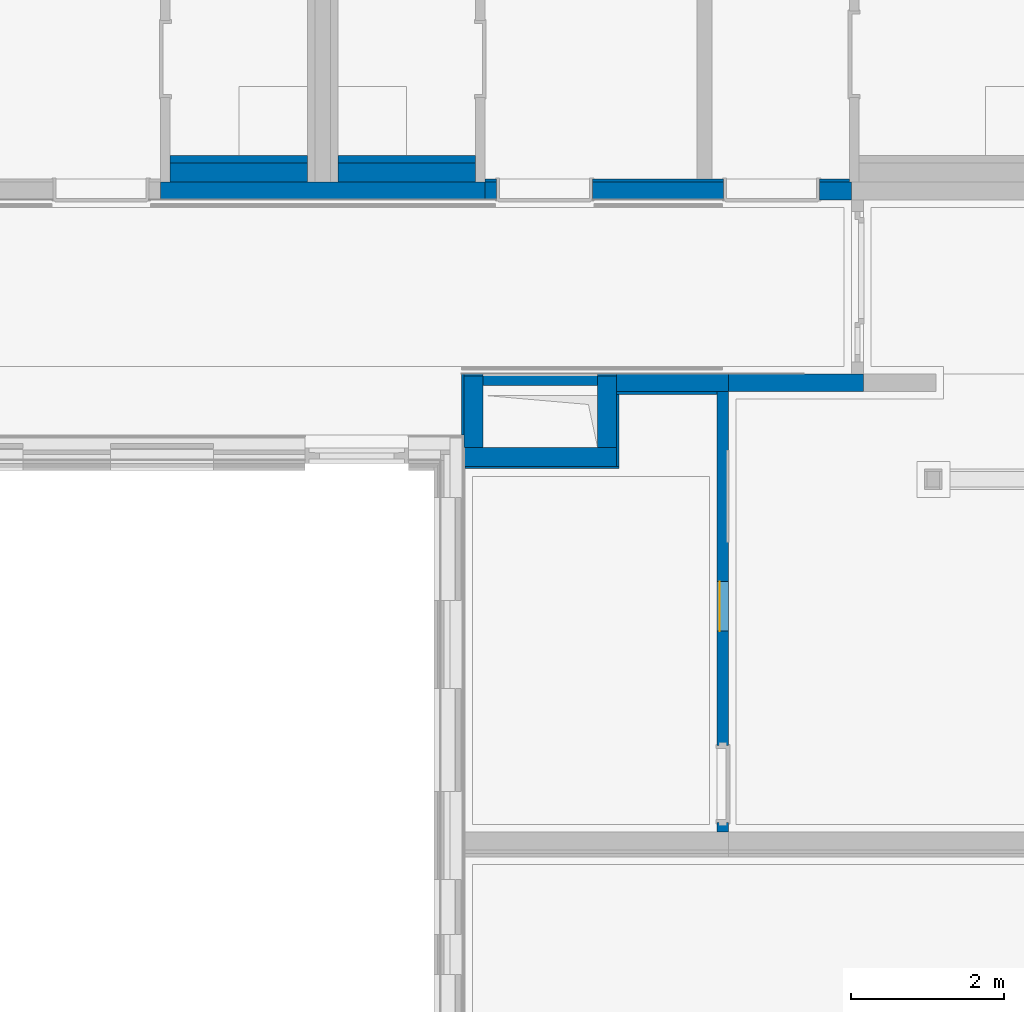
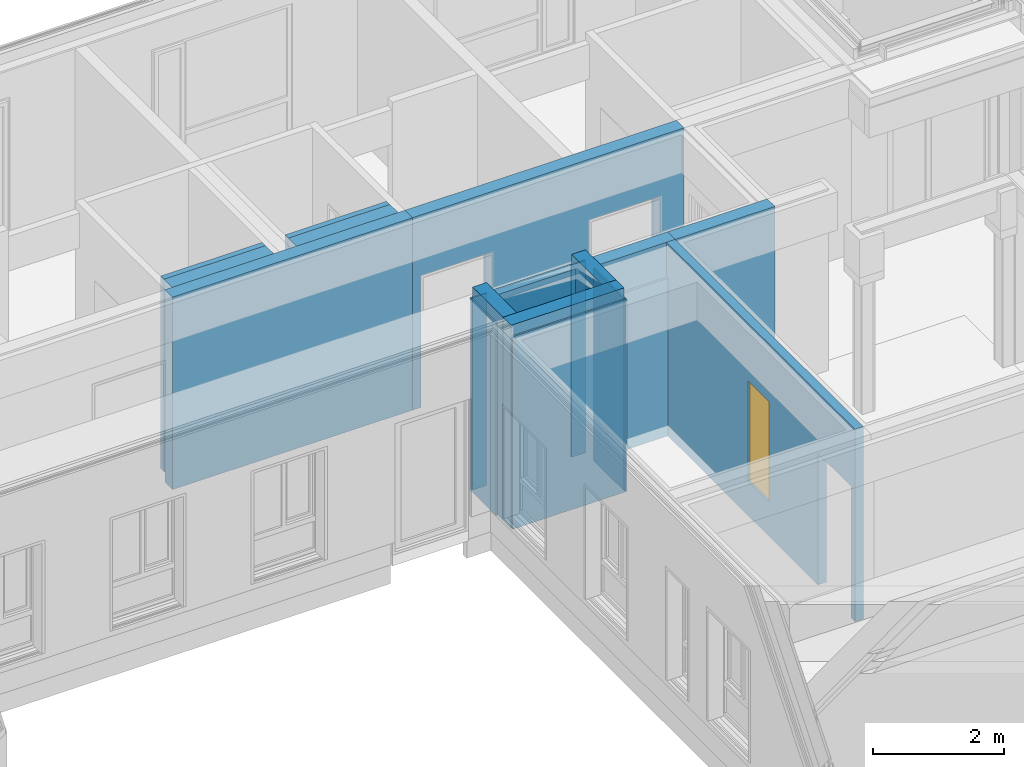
# One storey, part 20 of 207: 20 walls, 1 window, 6 openings.
"""IFC4 building model written with IfcOpenShell, lengths in metres."""

from ifc_helpers import new_model, entity, si_unit, converted_unit, derived_unit, frame, frame_2d, origin, origin_with_axes, place, context, subcontext, project, spatial, polyline, rectangle, outline, extrude, clip, bounded_halfspace, open_shell, surface_model, source, transform, mapped, material, element, fill, save


model = new_model("IFC4")

# Units and contexts
model_context = context("Model", 3, precision=1e-05, world=origin())
body_context = subcontext(model_context, "Body", "Model", "MODEL_VIEW")
ifc_project = project(units=[si_unit("LENGTHUNIT", "METRE"), si_unit("AREAUNIT", "SQUARE_METRE"), si_unit("VOLUMEUNIT", "CUBIC_METRE"), si_unit("MASSUNIT", "GRAM", prefix="KILO"), converted_unit("PLANEANGLEUNIT", "DEGREE", entity("IfcPlaneAngleMeasure", 0.0174532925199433), si_unit("PLANEANGLEUNIT", "RADIAN"), dimensions=[0, 0, 0, 0, 0, 0, 0]), derived_unit("THERMALTRANSMITTANCEUNIT", [(si_unit("POWERUNIT", "WATT"), 1), (si_unit("THERMODYNAMICTEMPERATUREUNIT", "KELVIN"), -1), (si_unit("LENGTHUNIT", "METRE"), -2)]), derived_unit("VOLUMETRICFLOWRATEUNIT", [(si_unit("LENGTHUNIT", "METRE"), 3), (converted_unit("TIMEUNIT", "hour", entity("IfcTimeMeasure", 3600.0), si_unit("TIMEUNIT", "SECOND"), dimensions=[0, 0, 1, 0, 0, 0, 0]), -1), (si_unit("LENGTHUNIT", "METRE"), -1)])], contexts=[model_context])

# Site, building, storey
site_placement = place(None, origin())
site = spatial("IfcSite", under=ifc_project, at=site_placement, Name="Psychiatrie Neubau Wunstorf", CompositionType="ELEMENT")
building_placement = place(site_placement, origin())
building = spatial("IfcBuilding", under=site, at=building_placement, Name="Neubau H2 Stationsgebäude", CompositionType="ELEMENT")
storey_placement = place(building_placement, frame((0.0, 0.0, -0.2)))
storey = spatial("IfcBuildingStorey", under=building, at=storey_placement, Name="H2 Ebene 0", CompositionType="ELEMENT", Elevation=-0.2)

# Wall
ifc_material_1 = material(Name="WI-STB")
wall_1_placement = place(storey_placement, frame((27.1, 20.875, 0.0), z_axis=(0.0, 0.0, 1.0), x_axis=(0.0, 1.0, 0.0)))
element("IfcWall", 1, at=wall_1_placement, inside=storey, material=ifc_material_1, context=body_context, shape_type="SweptSolid", body=[
    extrude(rectangle(XDim=0.931, YDim=0.25, at=frame_2d((0.4655, 0.125), x_axis=(1.0, 0.0))), origin_with_axes(), (0.0, 0.0, 1.0), 3.8),
])

# Wall, openings, window
ifc_material_2 = material(Name="WI-LB")
wall_2_placement = place(storey_placement, frame((30.3168490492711, 15.8324990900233, 0.0), z_axis=(0.0, 0.0, 1.0), x_axis=(0.0, 1.0, 0.0)))
wall_2 = element("IfcWall", 2, at=wall_2_placement, inside=storey, material=ifc_material_2, context=body_context, shape_type="SweptSolid", body=[
    extrude(rectangle(XDim=5.77150090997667, YDim=0.15, at=frame_2d((2.88575045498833, 0.075), x_axis=(1.0, 0.0))), origin_with_axes(), (0.0, 0.0, 1.0), 3.6),
])
opening_1_placement = place(wall_2_placement, frame((0.12500961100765, 0.0, 0.0), z_axis=(0.0, 1.0, 0.0), x_axis=(0.0, 0.0, 1.0)))
element("IfcOpeningElement", 3, at=opening_1_placement, cuts=wall_2, Name="Türöffnung", ObjectType="Opening", context=body_context, shape_type="SweptSolid", body=[
    extrude(outline(polyline([(2.46, 1.01), (2.46, 0.0), (0.0, 0.0), (0.0, 1.01), (2.46, 1.01)])), origin_with_axes(), (0.0, 0.0, 1.0), 0.15),
])
opening_2_placement = place(wall_2_placement, frame((2.63254047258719, 0.0, 0.64), z_axis=(0.0, 1.0, 0.0), x_axis=(0.0, 0.0, 1.0)))
opening_2 = element("IfcOpeningElement", 4, at=opening_2_placement, cuts=wall_2, Name="Fensteröffnung", ObjectType="Opening", context=body_context, shape_type="SweptSolid", body=[
    extrude(outline(polyline([(1.88, 0.649942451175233), (1.88, 0.0), (0.0, 0.0), (0.0, 0.649942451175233), (1.88, 0.649942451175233)])), origin_with_axes(), (0.0, 0.0, 1.0), 0.15),
])
shared_shape = source(origin_with_axes(), body_context, "Body", "SurfaceModel", [
    surface_model("IfcShellBasedSurfaceModel", [(0.0, 0.0350000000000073, 0.0), (0.0, 0.0350000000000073, 1.88), (0.649942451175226, 0.0350000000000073, 1.88), (0.649942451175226, 0.0350000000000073, 0.0)], [open_shell([[[0, 1, 2, 3]]], orient=[[False]])]),
])
window_placement = place(opening_2_placement, frame((0.0, 0.0, 0.08), z_axis=(1.0, 0.0, 0.0), x_axis=(0.0, 1.0, 0.0)))
window = element("IfcWindow", 5, at=window_placement, inside=storey, Name="Fenster", OverallHeight=1.88, OverallWidth=0.64994, PartitioningType="USERDEFINED", PredefinedType="WINDOW", context=body_context, shape_type="MappedRepresentation", body=[
    mapped(shared_shape, transform((0.0, 0.0, 0.0), x_axis=(1.0, 0.0, 0.0), y_axis=(0.0, 1.0, 0.0), z_axis=(0.0, 0.0, 1.0), scale=1.0)),
])
fill(opening_2, window)

# Walls
ifc_material_3 = material(Name="WI-STB")
wall_3_placement = place(storey_placement, frame((26.85, 20.625, 0.0)))
element("IfcWall", 6, at=wall_3_placement, inside=storey, material=ifc_material_3, context=body_context, shape_type="SweptSolid", body=[
    extrude(rectangle(XDim=2.0, YDim=0.25, at=frame_2d((1.0, 0.125), x_axis=(1.0, 0.0))), origin_with_axes(), (0.0, 0.0, 1.0), 3.8),
])
ifc_material_4 = material(Name="WI-STB")
wall_4_placement = place(storey_placement, frame((28.85, 20.875, 0.0), z_axis=(0.0, 0.0, 1.0), x_axis=(0.0, 1.0, 0.0)))
element("IfcWall", 7, at=wall_4_placement, inside=storey, material=ifc_material_4, context=body_context, shape_type="SweptSolid", body=[
    extrude(rectangle(XDim=0.931, YDim=0.25, at=frame_2d((0.4655, 0.125), x_axis=(1.0, 0.0))), origin_with_axes(), (0.0, 0.0, 1.0), 3.8),
])
ifc_material_5 = material(Name="WI-HW 60")
wall_5_placement = place(storey_placement, frame((22.875, 24.1175000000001, 0.0), z_axis=(0.0, 0.0, 1.0), x_axis=(1.0, 1.71199002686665e-15, 0.0)))
element("IfcWall", 8, at=wall_5_placement, inside=storey, material=ifc_material_5, context=body_context, shape_type="SweptSolid", body=[
    extrude(rectangle(XDim=4.2500000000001, YDim=0.232, at=frame_2d((2.12500000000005, 0.116), x_axis=(1.0, 0.0))), origin_with_axes(), (0.0, 0.0, 1.0), 3.6),
])
ifc_material_6 = material(Name="WI-HW 60")
wall_6_placement = place(storey_placement, frame((30.3168490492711, 21.604, 0.0), z_axis=(0.0, 0.0, 1.0), x_axis=(1.0, -2.05983458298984e-15, 0.0)))
element("IfcWall", 9, at=wall_6_placement, inside=storey, material=ifc_material_6, context=body_context, shape_type="SweptSolid", body=[
    extrude(rectangle(XDim=1.76615095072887, YDim=0.232000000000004, at=frame_2d((0.883075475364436, 0.116000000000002), x_axis=(1.0, 0.0))), origin_with_axes(), (0.0, 0.0, 1.0), 3.6),
])

# Wall, openings
ifc_material_7 = material(Name="WI-HW 60")
wall_7_placement = place(storey_placement, frame((27.1250000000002, 24.1175000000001, 0.0), z_axis=(0.0, 0.0, 1.0), x_axis=(1.0, 3.0297554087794e-15, 0.0)))
wall_7 = element("IfcWall", 10, at=wall_7_placement, inside=storey, material=ifc_material_7, context=body_context, shape_type="SweptSolid", body=[
    extrude(rectangle(XDim=4.8029999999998, YDim=0.232, at=frame_2d((2.4014999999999, 0.116), x_axis=(1.0, 0.0))), origin_with_axes(), (0.0, 0.0, 1.0), 3.6),
])
opening_3_placement = place(wall_7_placement, frame((3.1249999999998, 0.0, 0.0), z_axis=(3.920235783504e-15, 1.0, 0.0), x_axis=(0.0, 0.0, 1.0)))
element("IfcOpeningElement", 11, at=opening_3_placement, cuts=wall_7, Name="Türöffnung", ObjectType="Opening", context=body_context, shape_type="SweptSolid", body=[
    extrude(outline(polyline([(2.46, 1.26), (2.46, 0.0), (0.0, 0.0), (0.0, 1.26), (2.46, 1.26)])), origin_with_axes(), (0.0, 0.0, 1.0), 0.232),
])
opening_4_placement = place(wall_7_placement, frame((0.149999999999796, 0.0, 0.0), z_axis=(3.06268420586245e-15, 1.0, 0.0), x_axis=(0.0, 0.0, 1.0)))
element("IfcOpeningElement", 12, at=opening_4_placement, cuts=wall_7, Name="Türöffnung", ObjectType="Opening", context=body_context, shape_type="SweptSolid", body=[
    extrude(outline(polyline([(2.46, 1.26), (2.46, 0.0), (0.0, 0.0), (0.0, 1.26), (2.46, 1.26)])), origin_with_axes(), (0.0, 0.0, 1.0), 0.232000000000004),
])

ifc_material_8 = material(Name="WI-LB")
wall_8_placement = place(storey_placement, frame((27.125, 24.3495000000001, 0.0)))
wall_8 = element("IfcWall", 13, at=wall_8_placement, inside=storey, material=ifc_material_8, context=body_context, shape_type="SweptSolid", body=[
    extrude(rectangle(XDim=4.77299999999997, YDim=0.04, at=frame_2d((2.38649999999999, 0.02), x_axis=(1.0, 0.0))), origin_with_axes(), (0.0, 0.0, 1.0), 2.9),
])
opening_5_placement = place(wall_8_placement, frame((3.12499999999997, 0.0, 0.0), z_axis=(0.0, 1.0, 0.0), x_axis=(0.0, 0.0, 1.0)))
element("IfcOpeningElement", 14, at=opening_5_placement, cuts=wall_8, Name="Türöffnung", ObjectType="Opening", context=body_context, shape_type="SweptSolid", body=[
    extrude(outline(polyline([(2.46, 1.26), (2.46, 0.0), (0.0, 0.0), (0.0, 1.26), (2.46, 1.26)])), origin_with_axes(), (0.0, 0.0, 1.0), 0.04),
])
opening_6_placement = place(wall_8_placement, frame((0.149999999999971, 0.0, 0.0), z_axis=(0.0, 1.0, 0.0), x_axis=(0.0, 0.0, 1.0)))
element("IfcOpeningElement", 15, at=opening_6_placement, cuts=wall_8, Name="Türöffnung", ObjectType="Opening", context=body_context, shape_type="SweptSolid", body=[
    extrude(outline(polyline([(2.46, 1.26), (2.46, 0.0), (0.0, 0.0), (0.0, 1.26), (2.46, 1.26)])), origin_with_axes(), (0.0, 0.0, 1.0), 0.0400000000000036),
])

# Walls
ifc_material_9 = material(Name="WI-IW")
wall_9_placement = place(storey_placement, frame((24.8, 24.6995000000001, 0.0), z_axis=(0.0, 0.0, 1.0), x_axis=(-1.0, 0.0, 0.0)))
element("IfcWall", 16, at=wall_9_placement, inside=storey, material=ifc_material_9, context=body_context, shape_type="SweptSolid", body=[
    extrude(rectangle(XDim=1.8, YDim=0.1, at=frame_2d((0.9, 0.05), x_axis=(1.0, 0.0))), origin_with_axes(), (0.0, 0.0, 1.0), 3.6),
])
ifc_material_10 = material(Name="Installationsraum")
wall_10_placement = place(storey_placement, frame((24.8, 24.5995000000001, 0.0), z_axis=(0.0, 0.0, 1.0), x_axis=(-1.0, 0.0, 0.0)))
element("IfcWall", 17, at=wall_10_placement, inside=storey, material=ifc_material_10, context=body_context, shape_type="SweptSolid", body=[
    extrude(rectangle(XDim=1.8, YDim=0.25, at=frame_2d((0.9, 0.125), x_axis=(1.0, 0.0))), origin_with_axes(), (0.0, 0.0, 1.0), 3.6),
])
ifc_material_11 = material(Name="WI-IW")
wall_11_placement = place(storey_placement, frame((27.0, 24.6995000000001, 0.0), z_axis=(0.0, 0.0, 1.0), x_axis=(-1.0, 0.0, 0.0)))
element("IfcWall", 18, at=wall_11_placement, inside=storey, material=ifc_material_11, context=body_context, shape_type="SweptSolid", body=[
    extrude(rectangle(XDim=1.8, YDim=0.1, at=frame_2d((0.9, 0.05), x_axis=(1.0, 0.0))), origin_with_axes(), (0.0, 0.0, 1.0), 3.6),
])
ifc_material_12 = material(Name="Installationsraum")
wall_12_placement = place(storey_placement, frame((27.0, 24.5995000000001, 0.0), z_axis=(0.0, 0.0, 1.0), x_axis=(-1.0, 0.0, 0.0)))
element("IfcWall", 19, at=wall_12_placement, inside=storey, material=ifc_material_12, context=body_context, shape_type="SweptSolid", body=[
    extrude(rectangle(XDim=1.8, YDim=0.25, at=frame_2d((0.9, 0.125), x_axis=(1.0, 0.0))), origin_with_axes(), (0.0, 0.0, 1.0), 3.6),
])
ifc_material_13 = material(Name="WI-LB")
wall_13_placement = place(storey_placement, frame((27.1, 21.686, 0.0)))
element("IfcWall", 20, at=wall_13_placement, inside=storey, material=ifc_material_13, context=body_context, shape_type="SweptSolid", body=[
    extrude(outline(polyline([(0.0, 0.0), (1.5, 0.0), (1.5, 0.12), (1.49770822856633, 0.12), (1.49770822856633, 0.15), (0.0, 0.15), (0.0, 0.0)])), origin_with_axes(), (0.0, 0.0, 1.0), 3.6),
])
ifc_material_14 = material(Name="WI-LB")
wall_14_placement = place(storey_placement, frame((26.82, 21.836, 0.0), z_axis=(0.0, 0.0, 1.0), x_axis=(0.0, -1.0, 0.0)))
element("IfcWall", 21, at=wall_14_placement, inside=storey, material=ifc_material_14, context=body_context, shape_type="SweptSolid", body=[
    extrude(rectangle(XDim=0.8, YDim=0.03, at=frame_2d((0.4, 0.015), x_axis=(1.0, 0.0))), origin_with_axes(), (0.0, 0.0, 1.0), 3.6),
])
ifc_material_15 = material(Name="WI-LB")
wall_15_placement = place(storey_placement, frame((27.1, 21.836, 0.0), z_axis=(0.0, 0.0, 1.0), x_axis=(-1.0, 0.0, 0.0)))
element("IfcWall", 22, at=wall_15_placement, inside=storey, material=ifc_material_15, context=body_context, shape_type="SweptSolid", body=[
    extrude(rectangle(XDim=0.25, YDim=0.03, at=frame_2d((0.125, 0.015), x_axis=(1.0, 0.0))), origin_with_axes(), (0.0, 0.0, 1.0), 3.6),
])
ifc_material_16 = material(Name="WI-LB")
wall_16_placement = place(storey_placement, frame((28.85, 21.836, 0.0), z_axis=(0.0, 0.0, 1.0), x_axis=(-1.0, 0.0, 0.0)))
element("IfcWall", 23, at=wall_16_placement, inside=storey, material=ifc_material_16, context=body_context, shape_type="SweptSolid", body=[
    extrude(rectangle(XDim=0.252291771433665, YDim=0.03, at=frame_2d((0.126145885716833, 0.015), x_axis=(1.0, 0.0))), origin_with_axes(), (0.0, 0.0, 1.0), 3.6),
])
ifc_material_17 = material(Name="WI-LB")
wall_17_placement = place(storey_placement, frame((26.861, 20.595, 0.0)))
element("IfcWall", 24, at=wall_17_placement, inside=storey, material=ifc_material_17, context=body_context, shape_type="SweptSolid", body=[
    extrude(rectangle(XDim=2.019, YDim=0.0299996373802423, at=frame_2d((1.0095, 0.0149998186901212), x_axis=(1.0, 0.0))), origin_with_axes(), (0.0, 0.0, 1.0), 3.6),
])
ifc_material_18 = material(Name="WI-LB")
wall_18_placement = place(storey_placement, frame((28.88, 20.6249996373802, 0.0), z_axis=(0.0, 0.0, 1.0), x_axis=(0.0, 1.0, 0.0)))
element("IfcWall", 25, at=wall_18_placement, inside=storey, material=ifc_material_18, context=body_context, shape_type="Clipping", body=[
    clip(extrude(rectangle(XDim=0.940500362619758, YDim=0.0299996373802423, at=frame_2d((0.470250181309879, 0.0149998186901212), x_axis=(1.0, 0.0))), origin_with_axes(), (0.0, 0.0, 1.0), 3.6), bounded_halfspace(frame((0.939750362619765, 0.0149998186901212, 2.95), z_axis=(0.0, 0.0, 1.0), x_axis=(0.0, -1.0, 0.0)), True, origin_with_axes(), polyline([(0.939000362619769, 0.0299996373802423), (0.939000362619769, 0.0), (0.940500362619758, 0.0), (0.940500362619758, 0.0299996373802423), (0.939000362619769, 0.0299996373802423)]))),
])
ifc_material_19 = material(Name="WI-LB")
wall_19_placement = place(storey_placement, frame((28.8500003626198, 21.564, 0.0), z_axis=(0.0, 0.0, 1.0), x_axis=(1.0, -2.76263996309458e-15, 0.0)))
element("IfcWall", 26, at=wall_19_placement, inside=storey, material=ifc_material_19, context=body_context, shape_type="SweptSolid", body=[
    extrude(rectangle(XDim=1.31684868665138, YDim=0.04, at=frame_2d((0.658424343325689, 0.02), x_axis=(1.0, 0.0))), origin_with_axes(), (0.0, 0.0, 1.0), 2.95),
])
ifc_material_20 = material(Name="WI-HW 60")
wall_20_placement = place(storey_placement, frame((28.8500003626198, 21.604, 0.0), z_axis=(0.0, 0.0, 1.0), x_axis=(1.0, -2.48013230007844e-15, 0.0)))
element("IfcWall", 27, at=wall_20_placement, inside=storey, material=ifc_material_20, context=body_context, shape_type="SweptSolid", body=[
    extrude(rectangle(XDim=1.46684868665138, YDim=0.232, at=frame_2d((0.733424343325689, 0.116), x_axis=(1.0, 0.0))), origin_with_axes(), (0.0, 0.0, 1.0), 3.6),
])

save(model, "model.ifc")
